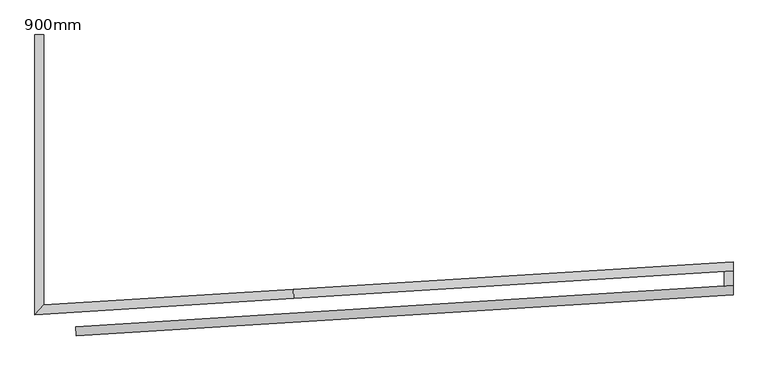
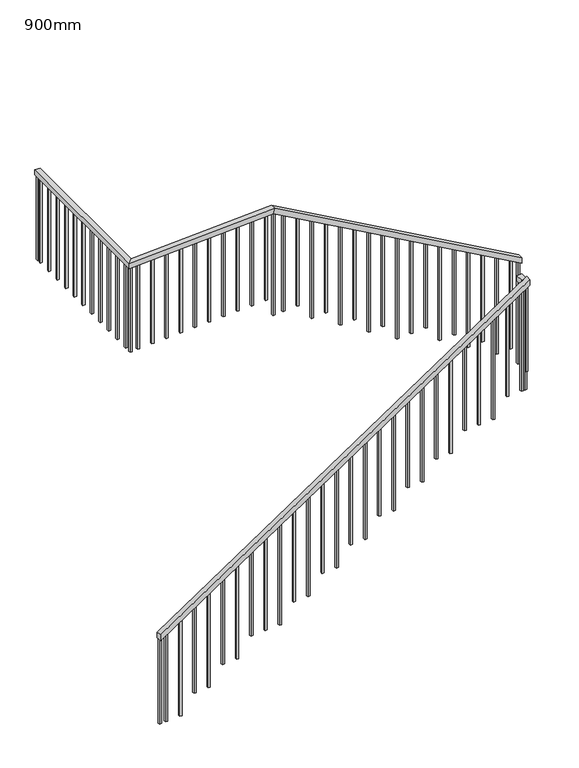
"""IFC4 building model written with IfcOpenShell, lengths in millimetres: railing geometry, 900mm."""

from ifc_helpers import new_model, si_unit, frame, origin, place, context, project, spatial, polyline, outline, extrude, faceted_brep, source, transform, mapped, element, save


def railing_900mm_5c761806(model_context):
    return source(origin(), model_context, "Body", "SolidModel", [
        faceted_brep([(9441.7631391, -1648.0414829, -2721.2502122), (9441.7631391, -1648.0414829, -2779.2978217), (9444.8876902, -1697.9437592, -2779.2978217), (9444.8876902, -1697.9437592, -2721.2502122), (13074.2630362, -1420.5983207, -574.7730003), (13074.2630362, -1470.6962358, -576.619326), (13074.2630362, -1470.6962358, -634.6669355), (13074.2630362, -1420.5983207, -632.8206098)], [[[0, 1, 2, 3]], [[4, 5, 6, 7]], [[1, 0, 4, 7]], [[2, 1, 7, 6]], [[3, 2, 6, 5]], [[0, 3, 5, 4]]]),
        faceted_brep([(13074.2630362, -1340.3241585, -435.170712), (13074.2630362, -1340.3241585, -493.2183215), (13074.2630362, -1290.2262435, -495.0646471), (13074.2630362, -1290.2262435, -437.0170377), (10645.5126005, -1492.3964765, 1000.0), (10631.893569, -1493.2492103, 950.0), (10628.7690179, -1443.346934, 950.0), (10642.3880494, -1442.4942002, 1000.0), (9216.1389471, -1581.8944181, 1000.0), (9216.1389471, -1581.8944181, 950.0), (9266.1389471, -1528.6658331, 950.0), (9266.1389471, -1528.6658331, 1000.0), (9216.1389471, -33.674905, 1000.0), (9266.1389471, -33.674905, 1000.0), (9266.1389471, -33.674905, 950.0), (9216.1389471, -33.674905, 950.0)], [[[0, 1, 2, 3]], [[1, 0, 4, 5]], [[2, 1, 5, 6]], [[3, 2, 6, 7]], [[0, 3, 7, 4]], [[5, 4, 8, 9]], [[6, 5, 9, 10]], [[7, 6, 10, 11]], [[4, 7, 11, 8]], [[12, 13, 14, 15]], [[9, 8, 12, 15]], [[10, 9, 15, 14]], [[11, 10, 14, 13]], [[8, 11, 13, 12]]]),
        faceted_brep([(13024.2630362, -1423.7289906, -595.4545455), (13024.2630362, -1423.7289906, -645.4545455), (13074.2630362, -1420.5983207, -645.4545455), (13074.2630362, -1420.5983207, -595.4545455), (13024.2630362, -1343.4548284, -595.4545455), (13074.2630362, -1340.3241585, -595.4545455), (13074.2630362, -1340.3241585, -645.4545455), (13024.2630362, -1343.4548284, -645.4545455)], [[[0, 1, 2, 3]], [[4, 5, 6, 7]], [[1, 0, 4, 7]], [[2, 1, 7, 6]], [[3, 2, 6, 5]], [[0, 3, 5, 4]]]),
        extrude(outline(polyline([(9231.1389471, -95.2801256), (9231.1389471, -75.2801256), (9251.1389471, -75.2801256), (9251.1389471, -95.2801256), (9231.1389471, -95.2801256)])), frame((0.0, 0.0, 100.0), z_axis=(0.0, 0.0, 1.0), x_axis=(1.0, 0.0, 0.0)), (0.0, 0.0, 1.0), 850.0),
        extrude(outline(polyline([(9231.1389471, -235.2801256), (9231.1389471, -215.2801256), (9251.1389471, -215.2801256), (9251.1389471, -235.2801256), (9231.1389471, -235.2801256)])), frame((0.0, 0.0, 100.0), z_axis=(0.0, 0.0, 1.0), x_axis=(1.0, 0.0, 0.0)), (0.0, 0.0, 1.0), 850.0),
        extrude(outline(polyline([(9231.1389471, -375.2801256), (9231.1389471, -355.2801256), (9251.1389471, -355.2801256), (9251.1389471, -375.2801256), (9231.1389471, -375.2801256)])), frame((0.0, 0.0, 100.0), z_axis=(0.0, 0.0, 1.0), x_axis=(1.0, 0.0, 0.0)), (0.0, 0.0, 1.0), 850.0),
        extrude(outline(polyline([(9231.1389471, -515.2801256), (9231.1389471, -495.2801256), (9251.1389471, -495.2801256), (9251.1389471, -515.2801256), (9231.1389471, -515.2801256)])), frame((0.0, 0.0, 100.0), z_axis=(0.0, 0.0, 1.0), x_axis=(1.0, 0.0, 0.0)), (0.0, 0.0, 1.0), 850.0),
        extrude(outline(polyline([(9231.1389471, -655.2801256), (9231.1389471, -635.2801256), (9251.1389471, -635.2801256), (9251.1389471, -655.2801256), (9231.1389471, -655.2801256)])), frame((0.0, 0.0, 100.0), z_axis=(0.0, 0.0, 1.0), x_axis=(1.0, 0.0, 0.0)), (0.0, 0.0, 1.0), 850.0),
        extrude(outline(polyline([(9231.1389471, -795.2801256), (9231.1389471, -775.2801256), (9251.1389471, -775.2801256), (9251.1389471, -795.2801256), (9231.1389471, -795.2801256)])), frame((0.0, 0.0, 100.0), z_axis=(0.0, 0.0, 1.0), x_axis=(1.0, 0.0, 0.0)), (0.0, 0.0, 1.0), 850.0),
        extrude(outline(polyline([(9231.1389471, -935.2801256), (9231.1389471, -915.2801256), (9251.1389471, -915.2801256), (9251.1389471, -935.2801256), (9231.1389471, -935.2801256)])), frame((0.0, 0.0, 100.0), z_axis=(0.0, 0.0, 1.0), x_axis=(1.0, 0.0, 0.0)), (0.0, 0.0, 1.0), 850.0),
        extrude(outline(polyline([(9231.1389471, -1075.2801256), (9231.1389471, -1055.2801256), (9251.1389471, -1055.2801256), (9251.1389471, -1075.2801256), (9231.1389471, -1075.2801256)])), frame((0.0, 0.0, 100.0), z_axis=(0.0, 0.0, 1.0), x_axis=(1.0, 0.0, 0.0)), (0.0, 0.0, 1.0), 850.0),
        extrude(outline(polyline([(9231.1389471, -1215.2801256), (9231.1389471, -1195.2801256), (9251.1389471, -1195.2801256), (9251.1389471, -1215.2801256), (9231.1389471, -1215.2801256)])), frame((0.0, 0.0, 100.0), z_axis=(0.0, 0.0, 1.0), x_axis=(1.0, 0.0, 0.0)), (0.0, 0.0, 1.0), 850.0),
        extrude(outline(polyline([(9231.1389471, -1355.2801256), (9231.1389471, -1335.2801256), (9251.1389471, -1335.2801256), (9251.1389471, -1355.2801256), (9231.1389471, -1355.2801256)])), frame((0.0, 0.0, 100.0), z_axis=(0.0, 0.0, 1.0), x_axis=(1.0, 0.0, 0.0)), (0.0, 0.0, 1.0), 850.0),
        extrude(outline(polyline([(9231.1389471, -1495.2801256), (9231.1389471, -1475.2801256), (9251.1389471, -1475.2801256), (9251.1389471, -1495.2801256), (9231.1389471, -1495.2801256)])), frame((0.0, 0.0, 100.0), z_axis=(0.0, 0.0, 1.0), x_axis=(1.0, 0.0, 0.0)), (0.0, 0.0, 1.0), 850.0),
        extrude(outline(polyline([(9327.1551407, -1559.9139425), (9307.1942301, -1561.1637629), (9305.9444097, -1541.2028524), (9325.9053202, -1539.9530319), (9327.1551407, -1559.9139425)])), frame((0.0, 0.0, 100.0), z_axis=(0.0, 0.0, 1.0), x_axis=(1.0, 0.0, 0.0)), (0.0, 0.0, 1.0), 850.0),
        extrude(outline(polyline([(9466.8815143, -1551.1651994), (9446.9206038, -1552.4150198), (9445.6707834, -1532.4541093), (9465.6316939, -1531.2042889), (9466.8815143, -1551.1651994)])), frame((0.0, 0.0, 100.0), z_axis=(0.0, 0.0, 1.0), x_axis=(1.0, 0.0, 0.0)), (0.0, 0.0, 1.0), 850.0),
        extrude(outline(polyline([(9606.607888, -1542.4164563), (9586.6469775, -1543.6662768), (9585.397157, -1523.7053663), (9605.3580675, -1522.4555458), (9606.607888, -1542.4164563)])), frame((0.0, 0.0, 100.0), z_axis=(0.0, 0.0, 1.0), x_axis=(1.0, 0.0, 0.0)), (0.0, 0.0, 1.0), 850.0),
        extrude(outline(polyline([(9746.3342616, -1533.6677133), (9726.3733511, -1534.9175337), (9725.1235307, -1514.9566232), (9745.0844412, -1513.7068028), (9746.3342616, -1533.6677133)])), frame((0.0, 0.0, 100.0), z_axis=(0.0, 0.0, 1.0), x_axis=(1.0, 0.0, 0.0)), (0.0, 0.0, 1.0), 850.0),
        extrude(outline(polyline([(9886.0606353, -1524.9189702), (9866.0997248, -1526.1687907), (9864.8499043, -1506.2078801), (9884.8108149, -1504.9580597), (9886.0606353, -1524.9189702)])), frame((0.0, 0.0, 100.0), z_axis=(0.0, 0.0, 1.0), x_axis=(1.0, 0.0, 0.0)), (0.0, 0.0, 1.0), 850.0),
        extrude(outline(polyline([(10025.7870089, -1516.1702272), (10005.8260984, -1517.4200476), (10004.576278, -1497.4591371), (10024.5371885, -1496.2093166), (10025.7870089, -1516.1702272)])), frame((0.0, 0.0, 100.0), z_axis=(0.0, 0.0, 1.0), x_axis=(1.0, 0.0, 0.0)), (0.0, 0.0, 1.0), 850.0),
        extrude(outline(polyline([(10165.5133826, -1507.4214841), (10145.5524721, -1508.6713045), (10144.3026516, -1488.710394), (10164.2635622, -1487.4605736), (10165.5133826, -1507.4214841)])), frame((0.0, 0.0, 100.0), z_axis=(0.0, 0.0, 1.0), x_axis=(1.0, 0.0, 0.0)), (0.0, 0.0, 1.0), 850.0),
        extrude(outline(polyline([(10305.2397563, -1498.672741), (10285.2788457, -1499.9225615), (10284.0290253, -1479.961651), (10303.9899358, -1478.7118305), (10305.2397563, -1498.672741)])), frame((0.0, 0.0, 100.0), z_axis=(0.0, 0.0, 1.0), x_axis=(1.0, 0.0, 0.0)), (0.0, 0.0, 1.0), 850.0),
        extrude(outline(polyline([(10444.9661299, -1489.923998), (10425.0052194, -1491.1738184), (10423.7553989, -1471.2129079), (10443.7163095, -1469.9630875), (10444.9661299, -1489.923998)])), frame((0.0, 0.0, 100.0), z_axis=(0.0, 0.0, 1.0), x_axis=(1.0, 0.0, 0.0)), (0.0, 0.0, 1.0), 850.0),
        extrude(outline(polyline([(10584.6925036, -1481.1752549), (10564.731593, -1482.4250754), (10563.4817726, -1462.4641648), (10583.4426831, -1461.2143444), (10584.6925036, -1481.1752549)])), frame((0.0, 0.0, 100.0), z_axis=(0.0, 0.0, 1.0), x_axis=(1.0, 0.0, 0.0)), (0.0, 0.0, 1.0), 850.0),
        extrude(outline(polyline([(105.8975417, 0.0), (94.1024583, 20.0), (1060.2361134, 20.0), (1060.2361134, 0.0), (105.8975417, 0.0)])), frame((10754.3832363, -1470.5503415, 982.9633861), z_axis=(-0.062491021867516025, 0.9980455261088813, 0.0), x_axis=(0.0, 0.0, -1.0)), (0.0, 0.0, 1.0), 20.0),
        extrude(outline(polyline([(105.8975418, 0.0), (94.1024583, 20.0), (977.670529, 20.0), (977.670529, 0.0), (105.8975418, 0.0)])), frame((10894.10961, -1461.8015984, 900.3978017), z_axis=(-0.062491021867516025, 0.9980455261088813, 0.0), x_axis=(0.0, 0.0, -1.0)), (0.0, 0.0, 1.0), 20.0),
        extrude(outline(polyline([(105.8975417, 0.0), (94.1024582, 20.0), (1072.3776717, 20.0), (1072.3776717, 0.0), (105.8975417, 0.0)])), frame((11033.8359836, -1453.0528554, 817.8322172), z_axis=(-0.062491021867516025, 0.9980455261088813, 0.0), x_axis=(0.0, 0.0, -1.0)), (0.0, 0.0, 1.0), 20.0),
        extrude(outline(polyline([(105.8975417, 0.0), (94.1024583, 20.0), (989.8120873, 20.0), (989.8120873, 0.0), (105.8975417, 0.0)])), frame((11173.5623573, -1444.3041123, 735.2666328), z_axis=(-0.062491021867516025, 0.9980455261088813, 0.0), x_axis=(0.0, 0.0, -1.0)), (0.0, 0.0, 1.0), 20.0),
        extrude(outline(polyline([(105.8975418, 0.0), (94.1024583, 20.0000001), (1084.5192302, 20.0000001), (1084.5192302, 0.0), (105.8975418, 0.0)])), frame((11313.288731, -1435.5553693, 652.7010484), z_axis=(-0.062491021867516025, 0.9980455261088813, 0.0), x_axis=(0.0, 0.0, -1.0)), (0.0, 0.0, 1.0), 20.0),
        extrude(outline(polyline([(105.8975417, 0.0), (94.1024582, 20.0), (1001.9536457, 20.0), (1001.9536457, 0.0), (105.8975417, 0.0)])), frame((11453.0151046, -1426.8066262, 570.1354639), z_axis=(-0.062491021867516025, 0.9980455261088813, 0.0), x_axis=(0.0, 0.0, -1.0)), (0.0, 0.0, 1.0), 20.0),
        extrude(outline(polyline([(105.8975417, 0.0), (94.1024583, 20.0000001), (1096.6607886, 20.0000001), (1096.6607886, 0.0), (105.8975417, 0.0)])), frame((11592.7414783, -1418.0578831, 487.5698795), z_axis=(-0.062491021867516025, 0.9980455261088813, 0.0), x_axis=(0.0, 0.0, -1.0)), (0.0, 0.0, 1.0), 20.0),
        extrude(outline(polyline([(105.8975418, 0.0), (94.1024583, 20.0), (1014.0952042, 20.0), (1014.0952042, 0.0), (105.8975418, 0.0)])), frame((11732.4678519, -1409.3091401, 405.0042951), z_axis=(-0.062491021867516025, 0.9980455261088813, 0.0), x_axis=(0.0, 0.0, -1.0)), (0.0, 0.0, 1.0), 20.0),
        extrude(outline(polyline([(105.8975417, 0.0), (94.1024582, 20.0), (1108.802347, 20.0), (1108.802347, 0.0), (105.8975417, 0.0)])), frame((11872.1942256, -1400.560397, 322.4387106), z_axis=(-0.062491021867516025, 0.9980455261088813, 0.0), x_axis=(0.0, 0.0, -1.0)), (0.0, 0.0, 1.0), 20.0),
        extrude(outline(polyline([(105.8975417, 0.0), (94.1024582, 20.0), (1026.2367626, 20.0), (1026.2367626, 0.0), (105.8975417, 0.0)])), frame((12011.9205992, -1391.811654, 239.8731262), z_axis=(-0.062491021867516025, 0.9980455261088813, 0.0), x_axis=(0.0, 0.0, -1.0)), (0.0, 0.0, 1.0), 20.0),
        extrude(outline(polyline([(105.8975418, 0.0), (94.1024583, 20.0), (943.6711782, 20.0), (943.6711782, 0.0), (105.8975418, 0.0)])), frame((12151.6469729, -1383.0629109, 157.3075418), z_axis=(-0.062491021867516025, 0.9980455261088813, 0.0), x_axis=(0.0, 0.0, -1.0)), (0.0, 0.0, 1.0), 20.0),
        extrude(outline(polyline([(105.8975417, 0.0), (94.1024582, 20.0), (1038.3783209, 20.0), (1038.3783209, 0.0), (105.8975417, 0.0)])), frame((12291.3733465, -1374.3141678, 74.7419573), z_axis=(-0.062491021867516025, 0.9980455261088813, 0.0), x_axis=(0.0, 0.0, -1.0)), (0.0, 0.0, 1.0), 20.0),
        extrude(outline(polyline([(105.8975417, 0.0), (94.1024582, 20.0), (955.8127365, 20.0), (955.8127365, 0.0), (105.8975417, 0.0)])), frame((12431.0997202, -1365.5654248, -7.8236271), z_axis=(-0.062491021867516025, 0.9980455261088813, 0.0), x_axis=(0.0, 0.0, -1.0)), (0.0, 0.0, 1.0), 20.0),
        extrude(outline(polyline([(105.8975418, 0.0), (94.1024583, 20.0000001), (1050.5198794, 20.0000001), (1050.5198794, 0.0), (105.8975418, 0.0)])), frame((12570.8260939, -1356.8166817, -90.3892115), z_axis=(-0.062491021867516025, 0.9980455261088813, 0.0), x_axis=(0.0, 0.0, -1.0)), (0.0, 0.0, 1.0), 20.0),
        extrude(outline(polyline([(105.8975417, 0.0), (94.1024582, 20.0), (967.9542949, 20.0), (967.9542949, 0.0), (105.8975417, 0.0)])), frame((12710.5524675, -1348.0679386, -172.954796), z_axis=(-0.062491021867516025, 0.9980455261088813, 0.0), x_axis=(0.0, 0.0, -1.0)), (0.0, 0.0, 1.0), 20.0),
        extrude(outline(polyline([(105.8975417, 0.0), (94.1024582, 20.0000001), (1062.6614378, 20.0000001), (1062.6614378, 0.0), (105.8975417, 0.0)])), frame((12850.2788412, -1339.3191956, -255.5203804), z_axis=(-0.062491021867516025, 0.9980455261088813, 0.0), x_axis=(0.0, 0.0, -1.0)), (0.0, 0.0, 1.0), 20.0),
        extrude(outline(polyline([(105.8975418, 0.0), (94.1024583, 20.0), (980.0958534, 20.0), (980.0958534, 0.0), (105.8975418, 0.0)])), frame((12990.0052148, -1330.5704525, -338.0859648), z_axis=(-0.062491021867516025, 0.9980455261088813, 0.0), x_axis=(0.0, 0.0, -1.0)), (0.0, 0.0, 1.0), 20.0),
        extrude(outline(polyline([(13039.2630362, -1387.2126132), (13039.2630362, -1367.2126132), (13059.2630362, -1367.2126132), (13059.2630362, -1387.2126132), (13039.2630362, -1387.2126132)])), frame((0.0, 0.0, -1495.4545455), z_axis=(0.0, 0.0, 1.0), x_axis=(1.0, 0.0, 0.0)), (0.0, 0.0, 1.0), 850.0),
        extrude(outline(polyline([(1098.851854, 20.0), (1098.851854, 0.0), (94.1024582, 0.0), (105.8975417, 20.0), (1098.851854, 20.0)])), frame((13016.9533084, -1459.2552181, -573.8754187), z_axis=(-0.062491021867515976, 0.9980455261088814, 0.0), x_axis=(0.0, 0.0, -1.0)), (0.0, 0.0, 1.0), 20.0),
        extrude(outline(polyline([(1016.2862696, 20.0), (1016.2862696, 0.0), (94.1024582, 0.0), (105.8975417, 20.0), (1016.2862696, 20.0)])), frame((12877.2269347, -1468.0039611, -656.4410031), z_axis=(-0.062491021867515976, 0.9980455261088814, 0.0), x_axis=(0.0, 0.0, -1.0)), (0.0, 0.0, 1.0), 20.0),
        extrude(outline(polyline([(1110.9934125, 20.0000001), (1110.9934125, 0.0), (94.1024583, 0.0), (105.8975418, 20.0000001), (1110.9934125, 20.0000001)])), frame((12737.5005611, -1476.7527042, -739.0065875), z_axis=(-0.062491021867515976, 0.9980455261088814, 0.0), x_axis=(0.0, 0.0, -1.0)), (0.0, 0.0, 1.0), 20.0),
        extrude(outline(polyline([(1028.427828, 20.0), (1028.427828, 0.0), (94.1024582, 0.0), (105.8975417, 20.0), (1028.427828, 20.0)])), frame((12597.7741874, -1485.5014473, -821.572172), z_axis=(-0.062491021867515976, 0.9980455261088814, 0.0), x_axis=(0.0, 0.0, -1.0)), (0.0, 0.0, 1.0), 20.0),
        extrude(outline(polyline([(945.8622436, 20.0000001), (945.8622436, 0.0), (94.1024582, 0.0), (105.8975417, 20.0000001), (945.8622436, 20.0000001)])), frame((12458.0478138, -1494.2501903, -904.1377564), z_axis=(-0.062491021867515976, 0.9980455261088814, 0.0), x_axis=(0.0, 0.0, -1.0)), (0.0, 0.0, 1.0), 20.0),
        extrude(outline(polyline([(1040.5693865, 20.0), (1040.5693865, 0.0), (94.1024583, 0.0), (105.8975418, 20.0), (1040.5693865, 20.0)])), frame((12318.3214401, -1502.9989334, -986.7033408), z_axis=(-0.062491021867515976, 0.9980455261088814, 0.0), x_axis=(0.0, 0.0, -1.0)), (0.0, 0.0, 1.0), 20.0),
        extrude(outline(polyline([(958.003802, 20.0000001), (958.003802, 0.0), (94.1024582, 0.0), (105.8975417, 20.0000001), (958.003802, 20.0000001)])), frame((12178.5950665, -1511.7476764, -1069.2689253), z_axis=(-0.062491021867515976, 0.9980455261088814, 0.0), x_axis=(0.0, 0.0, -1.0)), (0.0, 0.0, 1.0), 20.0),
        extrude(outline(polyline([(1052.7109448, 20.0), (1052.7109448, 0.0), (94.1024582, 0.0), (105.8975417, 20.0), (1052.7109448, 20.0)])), frame((12038.8686928, -1520.4964195, -1151.8345097), z_axis=(-0.062491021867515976, 0.9980455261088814, 0.0), x_axis=(0.0, 0.0, -1.0)), (0.0, 0.0, 1.0), 20.0),
        extrude(outline(polyline([(970.1453604, 20.0), (970.1453604, 0.0), (94.1024583, 0.0), (105.8975418, 20.0), (970.1453604, 20.0)])), frame((11899.1423191, -1529.2451626, -1234.4000941), z_axis=(-0.062491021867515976, 0.9980455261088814, 0.0), x_axis=(0.0, 0.0, -1.0)), (0.0, 0.0, 1.0), 20.0),
        extrude(outline(polyline([(1064.8525033, 20.0), (1064.8525033, 0.0), (94.1024583, 0.0), (105.8975418, 20.0), (1064.8525033, 20.0)])), frame((11759.4159455, -1537.9939056, -1316.9656785), z_axis=(-0.062491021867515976, 0.9980455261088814, 0.0), x_axis=(0.0, 0.0, -1.0)), (0.0, 0.0, 1.0), 20.0),
        extrude(outline(polyline([(982.2869188, 20.0), (982.2869188, 0.0), (94.1024582, 0.0), (105.8975417, 20.0), (982.2869188, 20.0)])), frame((11619.6895718, -1546.7426487, -1399.531263), z_axis=(-0.062491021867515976, 0.9980455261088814, 0.0), x_axis=(0.0, 0.0, -1.0)), (0.0, 0.0, 1.0), 20.0),
        extrude(outline(polyline([(1076.9940617, 20.0), (1076.9940617, 0.0), (94.1024583, 0.0), (105.8975418, 20.0), (1076.9940617, 20.0)])), frame((11479.9631982, -1555.4913917, -1482.0968474), z_axis=(-0.062491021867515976, 0.9980455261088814, 0.0), x_axis=(0.0, 0.0, -1.0)), (0.0, 0.0, 1.0), 20.0),
        extrude(outline(polyline([(994.4284773, 20.0), (994.4284773, 0.0), (94.1024583, 0.0), (105.8975418, 20.0), (994.4284773, 20.0)])), frame((11340.2368245, -1564.2401348, -1564.6624318), z_axis=(-0.062491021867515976, 0.9980455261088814, 0.0), x_axis=(0.0, 0.0, -1.0)), (0.0, 0.0, 1.0), 20.0),
        extrude(outline(polyline([(1089.1356201, 20.0000001), (1089.1356201, 0.0), (94.1024582, 0.0), (105.8975417, 20.0000001), (1089.1356201, 20.0000001)])), frame((11200.5104509, -1572.9888779, -1647.2280163), z_axis=(-0.062491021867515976, 0.9980455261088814, 0.0), x_axis=(0.0, 0.0, -1.0)), (0.0, 0.0, 1.0), 20.0),
        extrude(outline(polyline([(1006.5700357, 20.0), (1006.5700357, 0.0), (94.1024583, 0.0), (105.8975418, 20.0), (1006.5700357, 20.0)])), frame((11060.7840772, -1581.7376209, -1729.7936007), z_axis=(-0.062491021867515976, 0.9980455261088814, 0.0), x_axis=(0.0, 0.0, -1.0)), (0.0, 0.0, 1.0), 20.0),
        extrude(outline(polyline([(1101.2771785, 20.0000001), (1101.2771785, 0.0), (94.1024583, 0.0), (105.8975418, 20.0000001), (1101.2771785, 20.0000001)])), frame((10921.0577036, -1590.486364, -1812.3591851), z_axis=(-0.062491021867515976, 0.9980455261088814, 0.0), x_axis=(0.0, 0.0, -1.0)), (0.0, 0.0, 1.0), 20.0),
        extrude(outline(polyline([(1018.711594, 20.0), (1018.711594, 0.0), (94.1024582, 0.0), (105.8975417, 20.0), (1018.711594, 20.0)])), frame((10781.3313299, -1599.235107, -1894.9247696), z_axis=(-0.062491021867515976, 0.9980455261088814, 0.0), x_axis=(0.0, 0.0, -1.0)), (0.0, 0.0, 1.0), 20.0),
        extrude(outline(polyline([(1113.4187369, 20.0), (1113.4187369, 0.0), (94.1024583, 0.0), (105.8975418, 20.0), (1113.4187369, 20.0)])), frame((10641.6049562, -1607.9838501, -1977.490354), z_axis=(-0.062491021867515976, 0.9980455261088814, 0.0), x_axis=(0.0, 0.0, -1.0)), (0.0, 0.0, 1.0), 20.0),
        extrude(outline(polyline([(1030.8531525, 20.0), (1030.8531525, 0.0), (94.1024583, 0.0), (105.8975418, 20.0), (1030.8531525, 20.0)])), frame((10501.8785826, -1616.7325932, -2060.0559384), z_axis=(-0.062491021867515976, 0.9980455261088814, 0.0), x_axis=(0.0, 0.0, -1.0)), (0.0, 0.0, 1.0), 20.0),
        extrude(outline(polyline([(948.287568, 20.0), (948.287568, 0.0), (94.1024582, 0.0), (105.8975417, 20.0), (948.287568, 20.0)])), frame((10362.1522089, -1625.4813362, -2142.6215229), z_axis=(-0.062491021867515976, 0.9980455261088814, 0.0), x_axis=(0.0, 0.0, -1.0)), (0.0, 0.0, 1.0), 20.0),
        extrude(outline(polyline([(1042.9947109, 20.0), (1042.9947109, 0.0), (94.1024583, 0.0), (105.8975418, 20.0), (1042.9947109, 20.0)])), frame((10222.4258353, -1634.2300793, -2225.1871073), z_axis=(-0.062491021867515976, 0.9980455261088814, 0.0), x_axis=(0.0, 0.0, -1.0)), (0.0, 0.0, 1.0), 20.0),
        extrude(outline(polyline([(960.4291265, 20.0), (960.4291265, 0.0), (94.1024583, 0.0), (105.8975418, 20.0), (960.4291265, 20.0)])), frame((10082.6994616, -1642.9788224, -2307.7526917), z_axis=(-0.062491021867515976, 0.9980455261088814, 0.0), x_axis=(0.0, 0.0, -1.0)), (0.0, 0.0, 1.0), 20.0),
        extrude(outline(polyline([(1055.1362693, 20.0000001), (1055.1362693, 0.0), (94.1024582, 0.0), (105.8975417, 20.0000001), (1055.1362693, 20.0000001)])), frame((9942.973088, -1651.7275654, -2390.3182762), z_axis=(-0.062491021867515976, 0.9980455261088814, 0.0), x_axis=(0.0, 0.0, -1.0)), (0.0, 0.0, 1.0), 20.0),
        extrude(outline(polyline([(972.5706849, 20.0), (972.5706849, 0.0), (94.1024583, 0.0), (105.8975418, 20.0), (972.5706849, 20.0)])), frame((9803.2467143, -1660.4763085, -2472.8838606), z_axis=(-0.062491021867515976, 0.9980455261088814, 0.0), x_axis=(0.0, 0.0, -1.0)), (0.0, 0.0, 1.0), 20.0),
        extrude(outline(polyline([(1067.2778277, 20.0000001), (1067.2778277, 0.0), (94.1024583, 0.0), (105.8975418, 20.0000001), (1067.2778277, 20.0000001)])), frame((9663.5203407, -1669.2250515, -2555.449445), z_axis=(-0.062491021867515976, 0.9980455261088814, 0.0), x_axis=(0.0, 0.0, -1.0)), (0.0, 0.0, 1.0), 20.0),
        extrude(outline(polyline([(984.7122432, 20.0), (984.7122432, 0.0), (94.1024582, 0.0), (105.8975417, 20.0), (984.7122432, 20.0)])), frame((9523.793967, -1677.9737946, -2638.0150295), z_axis=(-0.062491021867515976, 0.9980455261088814, 0.0), x_axis=(0.0, 0.0, -1.0)), (0.0, 0.0, 1.0), 20.0),
        extrude(outline(polyline([(9251.7443126, -1564.6356707), (9231.7834021, -1565.8854911), (9230.5335816, -1545.9245806), (9250.4944922, -1544.6747601), (9251.7443126, -1564.6356707)])), frame((0.0, 0.0, 100.0), z_axis=(0.0, 0.0, 1.0), x_axis=(1.0, 0.0, 0.0)), (0.0, 0.0, 1.0), 850.0),
        extrude(outline(polyline([(105.8975417, 0.0), (94.1024582, 20.0), (1119.2251178, 20.0), (1119.2251178, 0.0), (105.8975417, 0.0)])), frame((10654.5556904, -1476.8008834, 1041.9523905), z_axis=(-0.062491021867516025, 0.9980455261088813, 0.0), x_axis=(0.0, 0.0, -1.0)), (0.0, 0.0, 1.0), 20.0),
        extrude(outline(polyline([(105.8975418, 0.0), (94.1024583, 20.0000001), (1116.0857885, 20.0000001), (1116.0857885, 0.0), (105.8975418, 0.0)])), frame((13059.8684017, -1326.196081, -379.368757), z_axis=(-0.062491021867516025, 0.9980455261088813, 0.0), x_axis=(0.0, 0.0, -1.0)), (0.0, 0.0, 1.0), 20.0),
        extrude(outline(polyline([(13038.6576707, -1437.8570682), (13058.6185812, -1436.6072477), (13059.8684017, -1456.5681582), (13039.9074911, -1457.8179787), (13038.6576707, -1437.8570682)])), frame((0.0, 0.0, -1495.4545455), z_axis=(0.0, 0.0, 1.0), x_axis=(1.0, 0.0, 0.0)), (0.0, 0.0, 1.0), 850.0),
        extrude(outline(polyline([(1119.2251178, 20.0), (1119.2251178, 0.0), (94.1024583, 0.0), (105.8975418, 20.0), (1119.2251178, 20.0)])), frame((13051.4311393, -1457.0964439, -553.5021549), z_axis=(-0.062491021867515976, 0.9980455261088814, 0.0), x_axis=(0.0, 0.0, -1.0)), (0.0, 0.0, 1.0), 20.0),
        extrude(outline(polyline([(9231.1389471, -53.674905), (9231.1389471, -33.674905), (9251.1389471, -33.674905), (9251.1389471, -53.674905), (9231.1389471, -53.674905)])), frame((0.0, 0.0, 100.0), z_axis=(0.0, 0.0, 1.0), x_axis=(1.0, 0.0, 0.0)), (0.0, 0.0, 1.0), 850.0),
        extrude(outline(polyline([(949.3269928, 20.0), (949.3269928, 0.0), (94.1024583, 0.0), (105.8975418, 20.0), (949.3269928, 20.0)])), frame((9463.9112354, -1681.7232559, -2673.4002799), z_axis=(-0.062491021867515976, 0.9980455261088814, 0.0), x_axis=(0.0, 0.0, -1.0)), (0.0, 0.0, 1.0), 20.0),
    ])


if __name__ == "__main__":
    model = new_model("IFC4")
    model_context = context("Model", 3, world=origin())
    ifc_project = project(units=[si_unit("LENGTHUNIT", "METRE", prefix="MILLI")], contexts=[model_context])
    site = spatial("IfcSite", under=ifc_project)
    building = spatial("IfcBuilding", under=site)
    placement = place(None, origin())
    railing_900mm_shape = railing_900mm_5c761806(model_context)
    element("IfcRailing", 1, ObjectType="900mm", at=placement, inside=building, context=model_context, shape_type="MappedRepresentation", body=[
        mapped(railing_900mm_shape, transform((0.0, 0.0, 0.0), x_axis=(1.0, 0.0, 0.0), y_axis=(0.0, 1.0, 0.0), z_axis=(0.0, 0.0, 1.0))),
    ])
    save(model, "model.ifc")
